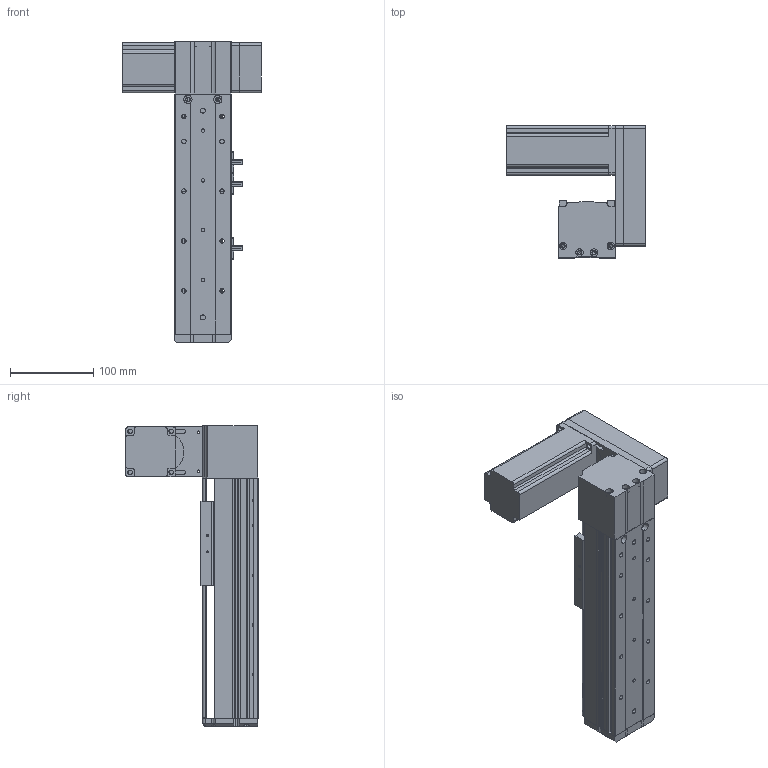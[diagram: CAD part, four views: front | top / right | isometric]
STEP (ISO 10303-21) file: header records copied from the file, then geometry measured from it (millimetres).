
FILE_DESCRIPTION (( 'STEP AP214' ), '1' );
FILE_NAME ('KSD68BS-S100-MLU-CM.STEP', '2019-08-22T02:18:23', ( '微软用户' ), ( '微软中国' ), 'SwSTEP 2.0', 'SolidWorks 2014', '' );
FILE_SCHEMA (( 'AUTOMOTIVE_DESIGN' ));
Length unit declared in the file: millimetre
Products named in the file (10): U倰嫖萇EEㄜSX672; 台达ECMA－C20604AS伺服电机（400W); KSD68BS 100俴最菁啣圉猾敕; KSD68BS-S100-MLU-CM; 悵誘欶奻狟殏; 68宽马达安装板连板上折同步带; 68宽单导轨半封闭同步带主动轮座左; 68单导轨同步带半封闭端板; KSD68BS100俴最裔啣圉猾敕; KSD68BS半封闭同步带传动导轨座
Assembly tree (11 placements, depth 2):
  KSD68BS-S100-MLU-CM
    KSD68BS 100俴最菁啣圉猾敕
    台达ECMA－C20604AS伺服电机（400W)
    U倰嫖萇EEㄜSX672  x3
    KSD68BS半封闭同步带传动导轨座
    KSD68BS100俴最裔啣圉猾敕
    68单导轨同步带半封闭端板
    68宽单导轨半封闭同步带主动轮座左
    68宽马达安装板连板上折同步带
    悵誘欶奻狟殏
Bounding box: 167.2 x 159.5 x 362 mm (x, y, z)
Volume: 1231950.4 mm3; surface area: 350352 mm2
Topology: 12 solids, 12 shells, 1200 faces, 3392 edges, 2200 vertices
Faces by surface type: cylinder 566, plane 551, cone 83
Entity records: 41754 total; most frequent: CARTESIAN_POINT 7567, DIRECTION 5566, ORIENTED_EDGE 5536, EDGE_CURVE 2768, AXIS2_PLACEMENT_3D 1983, VERTEX_POINT 1824, LINE 1600, VECTOR 1600
